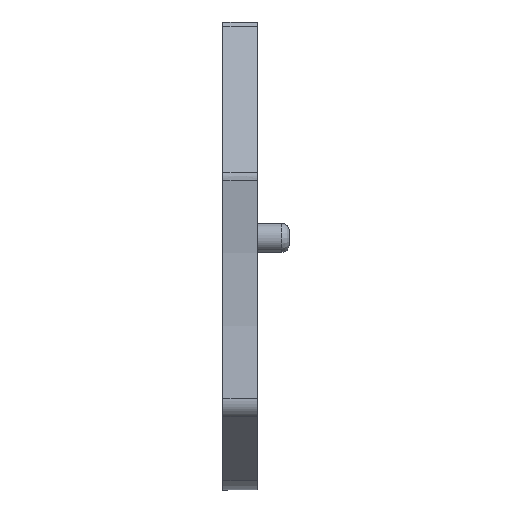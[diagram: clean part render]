
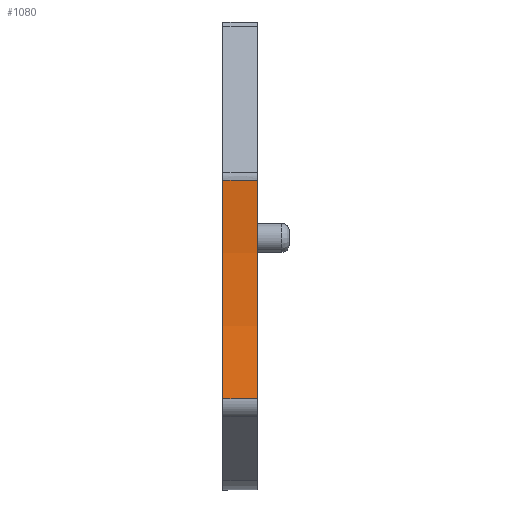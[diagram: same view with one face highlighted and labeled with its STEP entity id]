
A CAD part, left-side view. The second image highlights one B-rep face of the part: STEP entity #1080.
In plain terms, the highlighted cylindrical face has radius 50 mm (diameter 100 mm), a partial arc.
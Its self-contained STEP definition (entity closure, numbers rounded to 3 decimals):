
#239=CARTESIAN_POINT('',(-29.775,-2.45,22.007));
#240=VERTEX_POINT('',#239);
#248=CARTESIAN_POINT('',(-30.393,-2.45,6.853));
#249=VERTEX_POINT('',#248);
#250=CARTESIAN_POINT('',(-79.464,-2.45,16.444));
#251=DIRECTION('',(0.994,0.,0.111));
#252=DIRECTION('',(0.,1.,0.));
#253=AXIS2_PLACEMENT_3D('',#250,#252,#251);
#254=CIRCLE('',#253,50.);
#255=EDGE_CURVE('',#240,#249,#254,.T.);
#757=CARTESIAN_POINT('',(-29.775,-0.05,22.007));
#758=VERTEX_POINT('',#757);
#766=CARTESIAN_POINT('',(-30.393,-0.05,6.853));
#767=VERTEX_POINT('',#766);
#768=CARTESIAN_POINT('',(-79.464,-0.05,16.444));
#769=DIRECTION('',(0.981,0.,-0.192));
#770=DIRECTION('',(0.,-1.,0.));
#771=AXIS2_PLACEMENT_3D('',#768,#770,#769);
#772=CIRCLE('',#771,50.);
#773=EDGE_CURVE('',#767,#758,#772,.T.);
#1059=CARTESIAN_POINT('',(-79.464,-2.45,16.444));
#1060=DIRECTION('',(0.994,0.,0.111));
#1061=DIRECTION('',(0.,1.,0.));
#1062=AXIS2_PLACEMENT_3D('',#1059,#1061,#1060);
#1063=CYLINDRICAL_SURFACE('',#1062,50.);
#1064=CARTESIAN_POINT('',(-30.393,-2.45,6.853));
#1065=DIRECTION('',(0.,1.,0.));
#1066=VECTOR('',#1065,2.4);
#1067=LINE('',#1064,#1066);
#1068=EDGE_CURVE('',#249,#767,#1067,.T.);
#1069=ORIENTED_EDGE('E275',*,*,#1068,.T.);
#1070=ORIENTED_EDGE('E275',*,*,#773,.T.);
#1071=CARTESIAN_POINT('',(-29.775,-0.05,22.007));
#1072=DIRECTION('',(0.,-1.,0.));
#1073=VECTOR('',#1072,2.4);
#1074=LINE('',#1071,#1073);
#1075=EDGE_CURVE('',#758,#240,#1074,.T.);
#1076=ORIENTED_EDGE('E276',*,*,#1075,.T.);
#1077=ORIENTED_EDGE('E276',*,*,#255,.T.);
#1078=EDGE_LOOP('',(#1069,#1070,#1076,#1077));
#1079=FACE_OUTER_BOUND('',#1078,.F.);
#1080=ADVANCED_FACE('F32',(#1079),#1063,.F.);
